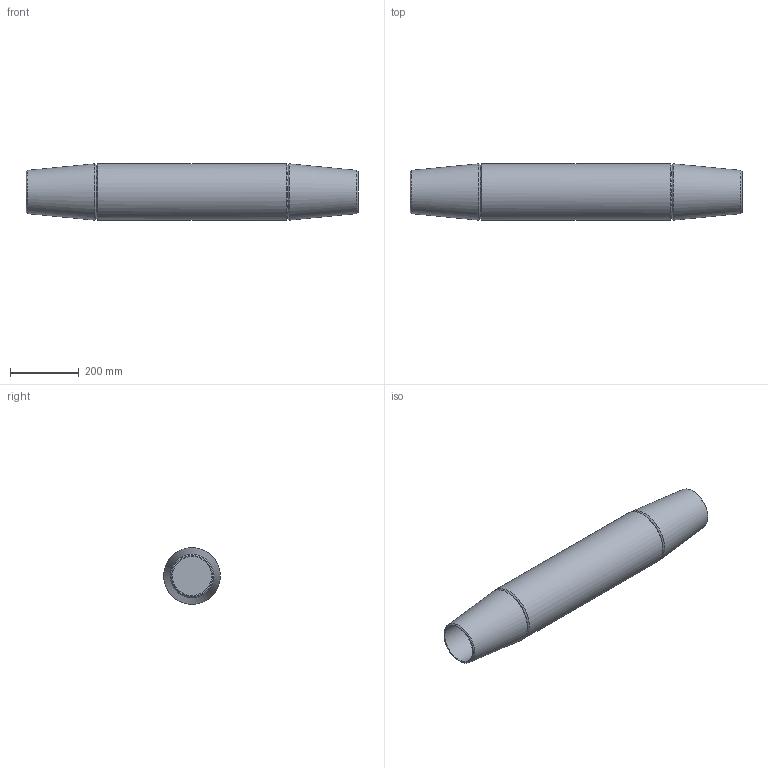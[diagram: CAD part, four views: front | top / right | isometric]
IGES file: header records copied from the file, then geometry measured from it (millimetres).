
Global section: file name: 520-110-MUF; native system: Autodesk Inventor 2016; preprocessor: unknown; author: Administrator; date: 20200630.132512; units: centimetre
Bounding box: 968 x 165 x 164.86 mm (x, y, z)
Volume: 15690993.5 mm3; surface area: 611245.5 mm2
Topology: 1 solids, 1 shells, 15 faces, 35 edges, 24 vertices
Faces by surface type: bspline 15
